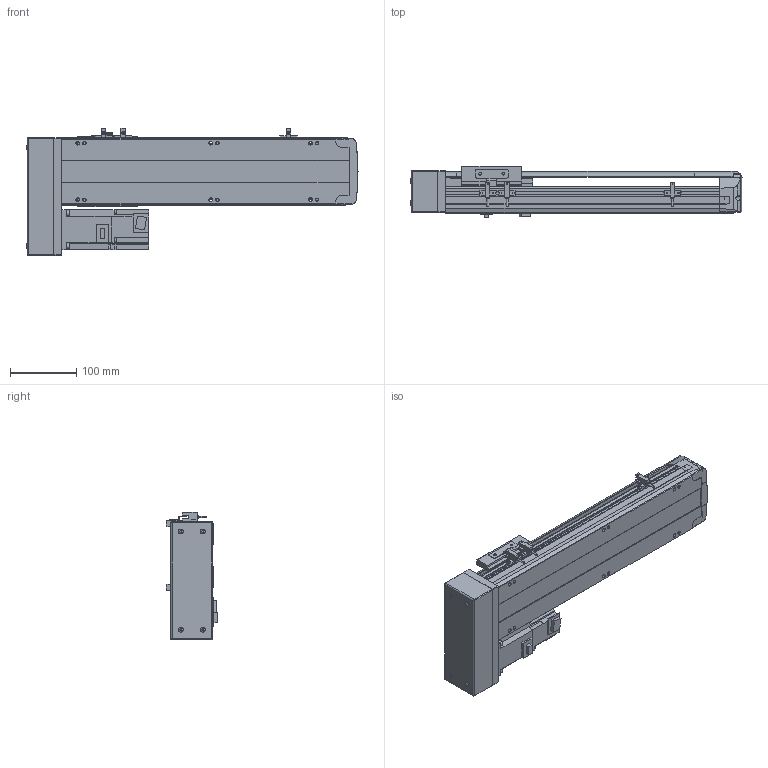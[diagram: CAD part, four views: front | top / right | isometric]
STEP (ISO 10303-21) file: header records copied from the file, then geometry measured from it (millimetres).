
FILE_DESCRIPTION( ( 'STEP AP214' ), '1' );
FILE_NAME( 'x:/temp/worker_27/temp/exporttempdir_6708_93_j5i8P/format_0/PSS120-L10-S250-BR-T40-C1-N(0).stp', '2022-06-06T00:30:13', ( 'License CC BY-ND 4.0' ), ( 'CADENAS' ), ' ', 'PARTsolutions', ' ' );
FILE_SCHEMA( ( 'AUTOMOTIVE_DESIGN { 1 0 10303 214 1 1 1 1 }' ) );
Length unit declared in the file: millimetre
Products named in the file (8): PSS120-L10-S250-BR-T40-C1-N(0); _PSS120-S250-BR-C1-N_body; _PSS120-N_Q; _PSS120-BR-C1-N_sl; _PSS120-N_sensor; _PSS120BR-N_h; _T40-p1; _PSS120-S250-BR-N_S
Assembly tree (9 placements, depth 2):
  PSS120-L10-S250-BR-T40-C1-N(0)
    _PSS120-S250-BR-C1-N_body
    _PSS120-N_Q
    _PSS120-BR-C1-N_sl
    _PSS120-N_sensor  x3
    _PSS120BR-N_h
    _T40-p1
    _PSS120-S250-BR-N_S
Bounding box: 499.35 x 76.8 x 191.2 mm (x, y, z)
Volume: 2451005.1 mm3; surface area: 410452 mm2
Topology: 9 solids, 9 shells, 800 faces, 2149 edges, 1422 vertices
Faces by surface type: plane 577, cylinder 205, cone 14, sphere 4
Full cylindrical faces by diameter (mm): 2.8 x3, 4 x4, 4.134 x10, 4.4 x2, 4.5 x4, 4.6 x3, 5 x6, 5.5 x13, 7 x2, 7.4 x4, 8 x4, 8.5 x10, 14 x1, 28 x1, 32 x2, 50 x1
Entity records: 27313 total; most frequent: CARTESIAN_POINT 4167, DIRECTION 3581, ORIENTED_EDGE 3526, EDGE_CURVE 1763, LINE 1293, VECTOR 1293, VERTEX_POINT 1212, AXIS2_PLACEMENT_3D 1144
